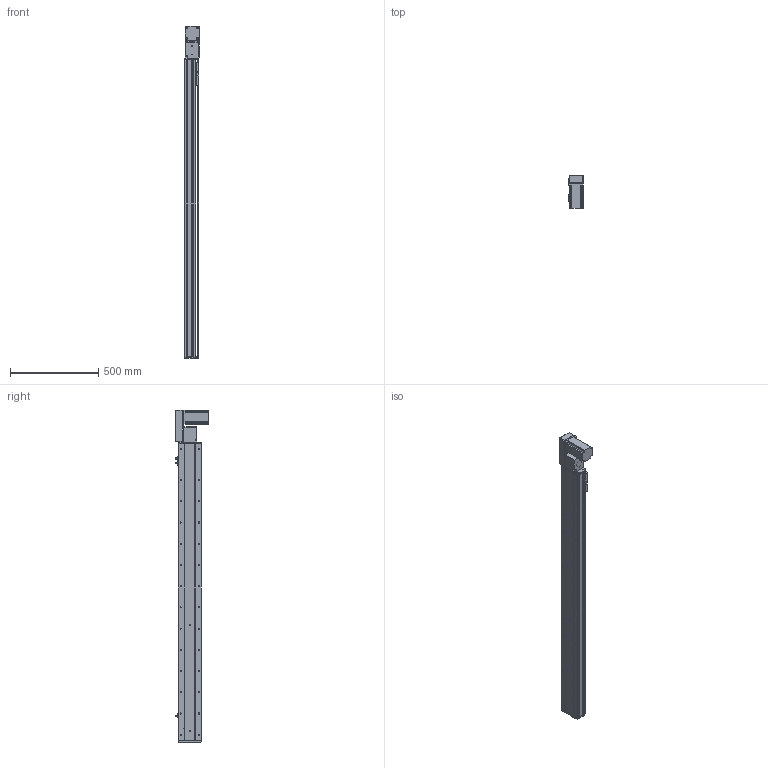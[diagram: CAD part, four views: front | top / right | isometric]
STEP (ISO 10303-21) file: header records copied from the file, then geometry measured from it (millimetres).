
FILE_DESCRIPTION (( 'STEP AP214' ), '1' );
FILE_NAME ('KSD130B-S1450-MRB-CM.STEP', '2019-11-15T07:42:15', ( '微软用户' ), ( '微软中国' ), 'SwSTEP 2.0', 'SolidWorks 2014', '' );
FILE_SCHEMA (( 'AUTOMOTIVE_DESIGN' ));
Length unit declared in the file: millimetre
Products named in the file (12): 130宽马达安装板同步带右-改镜向_默认<按加工>; 130宽马达安装板同步带半封闭; 130宽同步带安装座半封闭; 130宽端盖同步带半封闭; 130宽底板半封闭同步带-1450行程; KSD130B-S1450-MRB-CM; 台达ECMA－C20807AS伺服电机; 130宽模组保护罩上下左右折-同步带; 130宽模组马达安装板连板左右折同步带; 覜茼え100遵圉猾敕; U倰嫖萇EEㄜSX672; 130宽盖板半封闭同步带-1450行程
Assembly tree (13 placements, depth 2):
  KSD130B-S1450-MRB-CM
    130宽底板半封闭同步带-1450行程
    130宽端盖同步带半封闭
    130宽同步带安装座半封闭
    130宽马达安装板同步带半封闭
    130宽马达安装板同步带右-改镜向_默认<按加工>
    130宽盖板半封闭同步带-1450行程
    U倰嫖萇EEㄜSX672  x3
    覜茼え100遵圉猾敕
    130宽模组马达安装板连板左右折同步带
    130宽模组保护罩上下左右折-同步带
    台达ECMA－C20807AS伺服电机
Bounding box: 81 x 184.8 x 1877 mm (x, y, z)
Volume: 6202964.4 mm3; surface area: 1734317.3 mm2
Topology: 14 solids, 14 shells, 1645 faces, 4741 edges, 3011 vertices
Faces by surface type: cylinder 800, plane 638, cone 207
Entity records: 55151 total; most frequent: CARTESIAN_POINT 10456, DIRECTION 8347, ORIENTED_EDGE 8054, EDGE_CURVE 4027, AXIS2_PLACEMENT_3D 3062, VERTEX_POINT 2635, VECTOR 2223, LINE 2223
